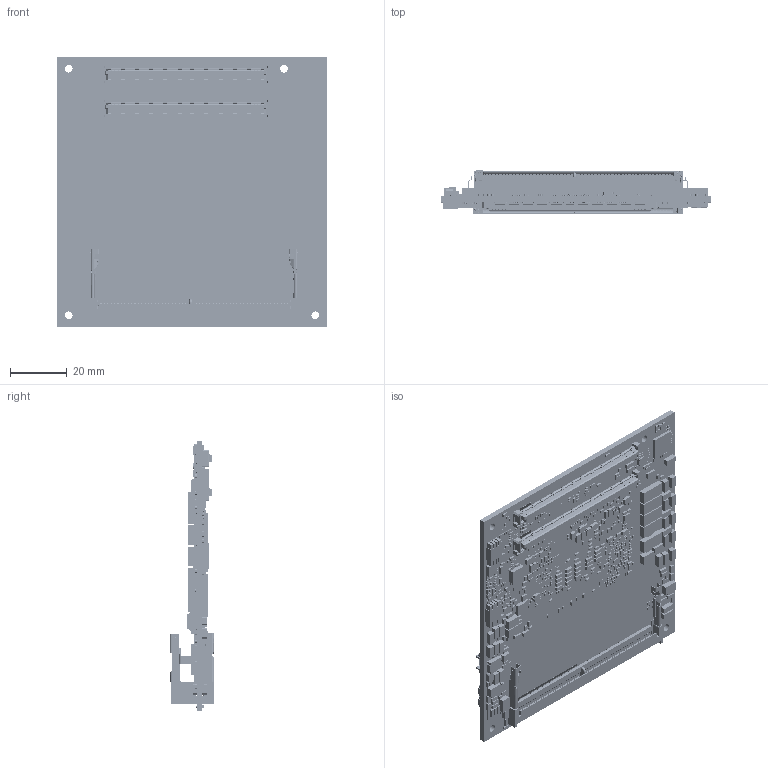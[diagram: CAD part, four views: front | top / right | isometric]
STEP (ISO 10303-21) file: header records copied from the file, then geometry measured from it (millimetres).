
FILE_DESCRIPTION((''),'2;1');
FILE_NAME('EMCOME-I94U0_ASM_ASM','2025-11-12T',('nina'),(''),'CREO PARAMETRIC BY PTC INC, 2018070','CREO PARAMETRIC BY PTC INC, 2018070','');
FILE_SCHEMA(('AUTOMOTIVE_DESIGN { 1 0 10303 214 1 1 1 1 }'));
Products named in the file (58): C-1827231-36-A-3D; EMCOME-I94U0_PCB; INTEL_RPL-P_2P8E_M66748_R03; WTB_ACES_3_125_SMD_R_F_85204; DDR5_H9-2_RVS_ASAAC2X-JARB0-XH; DDR5_H4_ASAAC26-J4SB0-7H_ASM; QFN28_4X4P04H08-TH102; TP30T; FBGA128_7X7P05H10; QFN76_9X9P04H09-TH252; QFN56_7X7P04H10-TH191X159; QFN56_7X7P04H10-TH210; QFN48_6X6P04H08-TH185; TQFN40_5X5P04H09-TH; QFN32_5X5P05H10-TH142; QFN28_4X4P045H08-TH95; QFN21_3X4P04H08_MPS; QFN21_3X5P04H08_MPS; QFN14_2X2P05H10_MPS; QFN12_2X3P05H10_MPS; QFN10_3X3H13_MUN3CA; DFN8_2X3P05H08-TH; POWERPAK1212-8; SOP8_W150P127H18; SOP8_W200P127H22; QFN8_1D25X1D5P05H08; TSSOP8_W170P065H12; VSSOP8_W90P05H09; CSP6_1X1D5P05H05; SOT363; SOT353; SOT23-5; ANT_MHF4; XTAL2016-4; XTAL2520-4; SOT323-GSD; SM0201_C; SM0603_C; SM0402_C; SM1512_CB20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
Assembly tree (1549 placements, depth 3):
  EMCOME-I94U0_ASM_ASM
    C-1827231-36-A-3D
    EMCOME-I94U0_PCB
    INTEL_RPL-P_2P8E_M66748_R03
    WTB_ACES_3_125_SMD_R_F_85204
    DDR5_H9-2_RVS_ASAAC2X-JARB0-XH
    DDR5_H4_ASAAC26-J4SB0-7H_ASM
    EMCOME-I94U0R10_240905_ASM
      QFN28_4X4P04H08-TH102
      TP30T  x10
      FBGA128_7X7P05H10
      QFN76_9X9P04H09-TH252
      QFN56_7X7P04H10-TH191X159
      QFN56_7X7P04H10-TH210
      QFN48_6X6P04H08-TH185
      TQFN40_5X5P04H09-TH
      QFN32_5X5P05H10-TH142
      QFN28_4X4P045H08-TH95
      QFN21_3X4P04H08_MPS  x2
      QFN21_3X5P04H08_MPS  x5
      QFN14_2X2P05H10_MPS  x2
      QFN12_2X3P05H10_MPS  x2
      QFN10_3X3H13_MUN3CA  x3
      DFN8_2X3P05H08-TH  x2
      POWERPAK1212-8
      SOP8_W150P127H18
      SOP8_W200P127H22  x2
      QFN8_1D25X1D5P05H08  x4
      TSSOP8_W170P065H12
      VSSOP8_W90P05H09
      CSP6_1X1D5P05H05
      SOT363  x24
      SOT353  x25
      SOT23-5  x2
      ANT_MHF4  x4
      XTAL2016-4  x4
      XTAL2520-4
      SOT323-GSD  x4
      SM0201_C  x256
      SM0603_C  x76
      SM0402_C  x152
      SM1512_CB20  x7
      SM2917_CD19  x5
      IHLP1616BZ_LS-020  x4
      IHLP2525_LS-030  x8
      GSTL252012_LS-012
      SM0402_R  x184
      SM0201_R  x645
      SM0603_R  x4
      SOT89-BCE
      SM1206_C  x27
      SM0805_C  x6
      SM0402_D  x24
      SOD323  x4
      SM0402_B  x8
      SM0603_B  x4
      XTAL3215-2
      TP20T  x15
Bounding box: 95 x 15.55 x 95 mm (x, y, z)
Volume: 28747.8 mm3; surface area: 47357.7 mm2
Topology: 1549 solids, 1920 shells, 40806 faces, 105779 edges, 69877 vertices
Faces by surface type: plane 30644, cylinder 9967, extrusion 101, bspline 40, torus 30, cone 16, sphere 8
Entity records: 990428 total; most frequent: CARTESIAN_POINT 178970, ORIENTED_EDGE 157444, DIRECTION 151870, EDGE_CURVE 78733, VECTOR 64214, LINE 64113, VERTEX_POINT 51857, AXIS2_PLACEMENT_3D 43828
